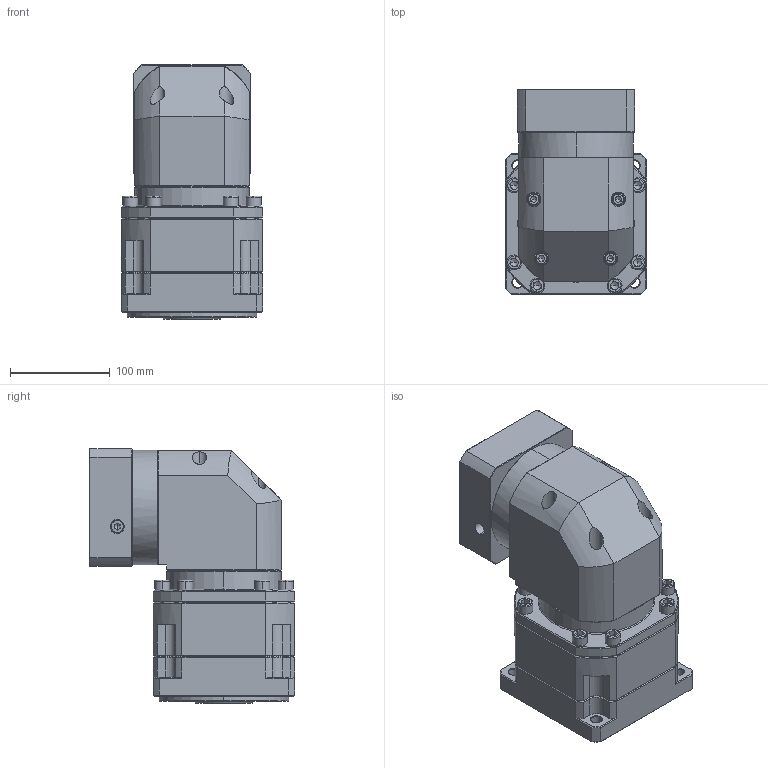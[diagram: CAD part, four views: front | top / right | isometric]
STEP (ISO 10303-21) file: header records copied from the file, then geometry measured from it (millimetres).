
FILE_DESCRIPTION (( 'STEP AP214' ), '1' );
FILE_NAME ('ZBR142A-K35-L2-P2-24-95-130-M8.step', '2023-09-02T08:13:46', ( '' ), ( '' ), 'SwSTEP 2.0', 'SolidWorks 2016', '' );
FILE_SCHEMA (( 'AUTOMOTIVE_DESIGN' ));
Length unit declared in the file: millimetre
Products named in the file (1): ZBR142A-K35-L2-P2-24-95-130-M8
Bounding box: 142 x 205.9 x 255.2 mm (x, y, z)
Volume: 4233794.7 mm3; surface area: 310986.2 mm2
Topology: 6 solids, 6 shells, 2530 faces, 6593 edges, 4188 vertices
Faces by surface type: plane 1225, cylinder 465, bspline 403, cone 393, torus 44
Entity records: 130492 total; most frequent: CARTESIAN_POINT 43798, ORIENTED_EDGE 13082, DIRECTION 10748, EDGE_CURVE 6541, VECTOR 4216, LINE 4216, VERTEX_POINT 4188, AXIS2_PLACEMENT_3D 3266
